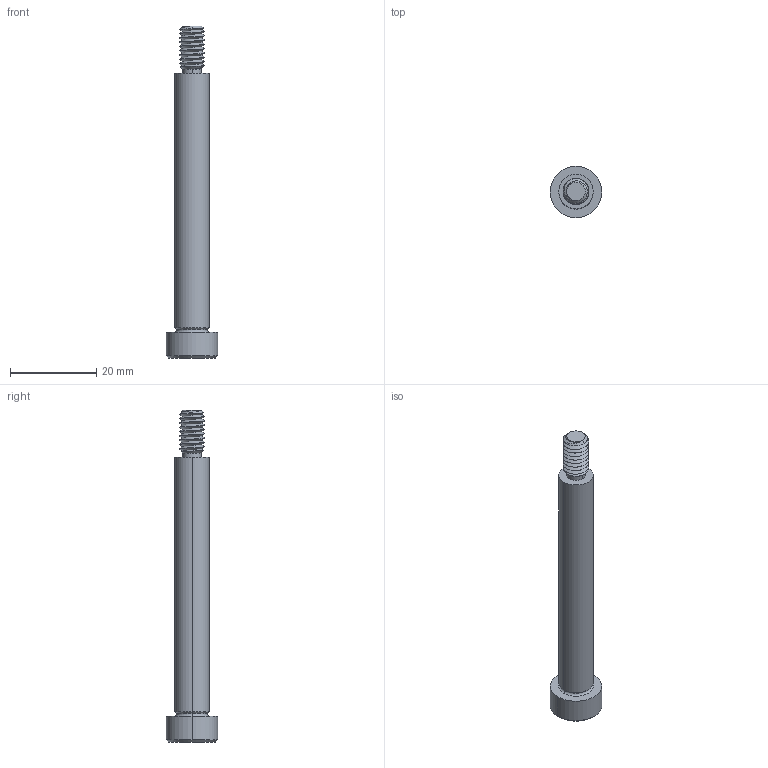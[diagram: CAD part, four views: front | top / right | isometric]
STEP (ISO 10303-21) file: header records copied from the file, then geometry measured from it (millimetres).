
FILE_DESCRIPTION (( 'STEP AP203' ), '1' );
FILE_NAME ('P0130.080-060-B2.step', '2021-11-09T21:43:07', ( '' ), ( '' ), 'SwSTEP 2.0', 'SolidWorks 2019', '' );
FILE_SCHEMA (( 'CONFIG_CONTROL_DESIGN' ));
Length unit declared in the file: millimetre
Products named in the file (1): P0130.080-060-B2
Bounding box: 12 x 12 x 77 mm (x, y, z)
Volume: 3847.8 mm3; surface area: 2340.8 mm2
Topology: 1 solids, 1 shells, 60 faces, 142 edges, 85 vertices
Faces by surface type: cylinder 24, plane 16, cone 14, torus 4, bspline 2
Entity records: 4245 total; most frequent: CARTESIAN_POINT 2899, ORIENTED_EDGE 280, DIRECTION 247, EDGE_CURVE 140, AXIS2_PLACEMENT_3D 99, VERTEX_POINT 85, EDGE_LOOP 63, ADVANCED_FACE 60
